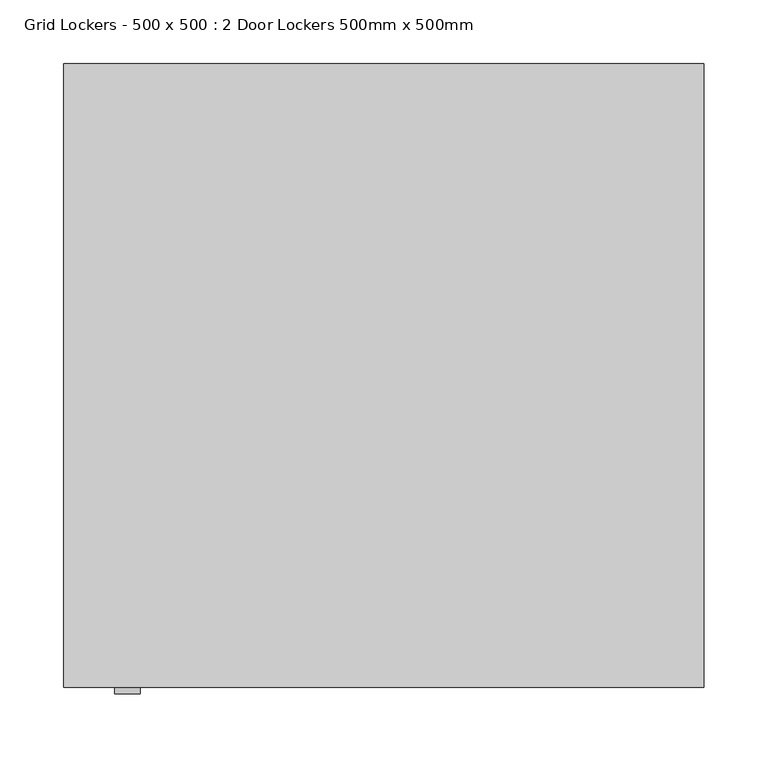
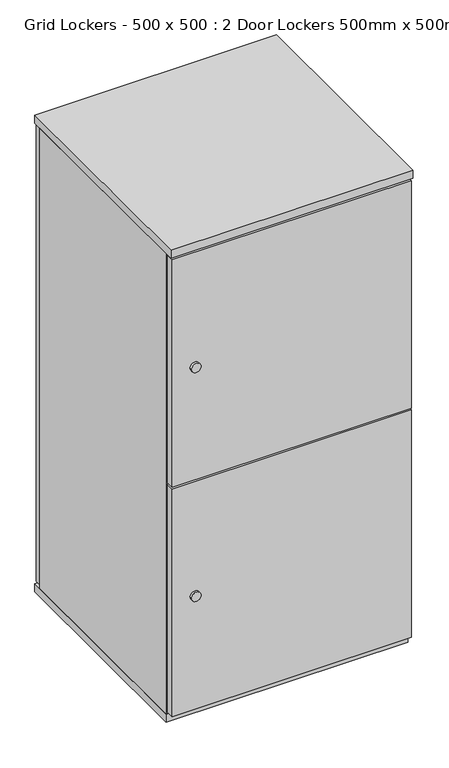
"""IFC4 building model written with IfcOpenShell, lengths in millimetres: furniture geometry, Grid Lockers - 500 x 500 : 2 Door Lockers 500mm x 500mm."""

from ifc_helpers import new_model, si_unit, point, frame, frame_2d, origin, origin_with_axes, place, context, project, spatial, polyline, circle_curve, trimmed, segment, composite_curve, outline, extrude, source, transform, mapped, element, save


def grid_lockers_500_x_500_2_door_lockers_500mm_x_500mm_4c120513(model_context):
    return source(origin(), model_context, "Body", "SweptSolid", [
        extrude(outline(composite_curve([segment(trimmed(circle_curve(frame_2d((784.948974, 50.0)), 10.0), [point((784.948974, 40.0))], [point((784.948974, 60.0))], False, "CARTESIAN"), True, "CONTINUOUS"), segment(trimmed(circle_curve(frame_2d((784.948974, 50.0)), 10.0), [point((784.948974, 60.0))], [point((784.948974, 40.0))], False, "CARTESIAN"), True, "CONTINUOUS")], self_intersect=False)), frame((0.0, -495.0, 0.0), z_axis=(0.0, 1.0, 0.0), x_axis=(0.0, 0.0, 1.0)), (0.0, 0.0, 1.0), 5.0),
        extrude(outline(composite_curve([segment(trimmed(circle_curve(frame_2d((282.0, 50.0)), 10.0), [point((282.0, 40.0))], [point((282.0, 60.0))], False, "CARTESIAN"), True, "CONTINUOUS"), segment(trimmed(circle_curve(frame_2d((282.0, 50.0)), 10.0), [point((282.0, 60.0))], [point((282.0, 40.0))], False, "CARTESIAN"), True, "CONTINUOUS")], self_intersect=False)), frame((0.0, -495.0, 0.0), z_axis=(0.0, 1.0, 0.0), x_axis=(0.0, 0.0, 1.0)), (0.0, 0.0, 1.0), 5.0),
        extrude(outline(polyline([(499.9962816, -490.0), (2.9962816, -490.0), (2.9962816, -472.0), (499.9962816, -472.0), (499.9962816, -490.0)])), frame((0.0, 0.0, 535.7589891), z_axis=(0.0, 0.0, 1.0), x_axis=(1.0, 0.0, 0.0)), (0.0, 0.0, 1.0), 500.0),
        extrude(outline(composite_curve([segment(trimmed(circle_curve(frame_2d((450.0, -50.0)), 15.0), [point((435.0, -50.0))], [point((465.0, -50.0))], False, "CARTESIAN"), True, "CONTINUOUS"), segment(trimmed(circle_curve(frame_2d((450.0, -50.0)), 15.0), [point((465.0, -50.0))], [point((435.0, -50.0))], False, "CARTESIAN"), True, "CONTINUOUS")], self_intersect=False)), origin_with_axes(), (0.0, 0.0, 1.0), 10.0),
        extrude(outline(composite_curve([segment(trimmed(circle_curve(frame_2d((50.0, -50.0)), 15.0), [point((35.0, -50.0))], [point((65.0, -50.0))], False, "CARTESIAN"), True, "CONTINUOUS"), segment(trimmed(circle_curve(frame_2d((50.0, -50.0)), 15.0), [point((65.0, -50.0))], [point((35.0, -50.0))], False, "CARTESIAN"), True, "CONTINUOUS")], self_intersect=False)), origin_with_axes(), (0.0, 0.0, 1.0), 10.0),
        extrude(outline(composite_curve([segment(trimmed(circle_curve(frame_2d((50.0, -440.0)), 15.0), [point((35.0, -440.0))], [point((65.0, -440.0))], False, "CARTESIAN"), True, "CONTINUOUS"), segment(trimmed(circle_curve(frame_2d((50.0, -440.0)), 15.0), [point((65.0, -440.0))], [point((35.0, -440.0))], False, "CARTESIAN"), True, "CONTINUOUS")], self_intersect=False)), origin_with_axes(), (0.0, 0.0, 1.0), 10.0),
        extrude(outline(composite_curve([segment(trimmed(circle_curve(frame_2d((450.0, -440.0)), 15.0), [point((435.0, -440.0))], [point((465.0, -440.0))], False, "CARTESIAN"), True, "CONTINUOUS"), segment(trimmed(circle_curve(frame_2d((450.0, -440.0)), 15.0), [point((465.0, -440.0))], [point((435.0, -440.0))], False, "CARTESIAN"), True, "CONTINUOUS")], self_intersect=False)), origin_with_axes(), (0.0, 0.0, 1.0), 10.0),
        extrude(outline(polyline([(502.9888449, -490.0), (0.0, -490.0), (0.0, 0.0), (502.9888449, 0.0), (502.9888449, -490.0)])), frame((0.0, 0.0, 1040.0), z_axis=(0.0, 0.0, 1.0), x_axis=(1.0, 0.0, 0.0)), (0.0, 0.0, 1.0), 18.0),
        extrude(outline(polyline([(502.9888449, -472.0), (0.0, -472.0), (0.0, 0.0), (502.9888449, 0.0), (502.9888449, -472.0)])), frame((0.0, 0.0, 10.0), z_axis=(0.0, 0.0, 1.0), x_axis=(1.0, 0.0, 0.0)), (0.0, 0.0, 1.0), 18.0),
        extrude(outline(polyline([(500.0, -490.0), (3.0, -490.0), (3.0, -472.0), (500.0, -472.0), (500.0, -490.0)])), frame((0.0, 0.0, 32.0), z_axis=(0.0, 0.0, 1.0), x_axis=(1.0, 0.0, 0.0)), (0.0, 0.0, 1.0), 500.0),
        extrude(outline(polyline([(502.9888449, -18.0), (502.9888449, -472.0), (0.0, -472.0), (0.0, -18.0), (502.9888449, -18.0)])), frame((0.0, 0.0, 28.0), z_axis=(0.0, 0.0, 1.0), x_axis=(1.0, 0.0, 0.0)), (0.0, 0.0, 1.0), 1012.0),
        extrude(outline(polyline([(497.0, 0.0), (497.0, -18.0), (3.0, -18.0), (3.0, 0.0), (497.0, 0.0)])), frame((0.0, 0.0, 32.0), z_axis=(0.0, 0.0, 1.0), x_axis=(1.0, 0.0, 0.0)), (0.0, 0.0, 1.0), 1008.0),
    ])


if __name__ == "__main__":
    model = new_model("IFC4")
    model_context = context("Model", 3, world=origin())
    ifc_project = project(units=[si_unit("LENGTHUNIT", "METRE", prefix="MILLI")], contexts=[model_context])
    site = spatial("IfcSite", under=ifc_project)
    building = spatial("IfcBuilding", under=site)
    placement = place(None, origin())
    grid_lockers_500_x_500_2_door_lockers_500mm_x_500mm_shape = grid_lockers_500_x_500_2_door_lockers_500mm_x_500mm_4c120513(model_context)
    element("IfcFurniture", 1, ObjectType="Grid Lockers - 500 x 500 : 2 Door Lockers 500mm x 500mm", at=placement, inside=building, context=model_context, shape_type="MappedRepresentation", body=[
        mapped(grid_lockers_500_x_500_2_door_lockers_500mm_x_500mm_shape, transform((0.0, 0.0, 0.0), x_axis=(1.0, 0.0, 0.0), y_axis=(0.0, 1.0, 0.0), z_axis=(0.0, 0.0, 1.0))),
    ])
    save(model, "model.ifc")
